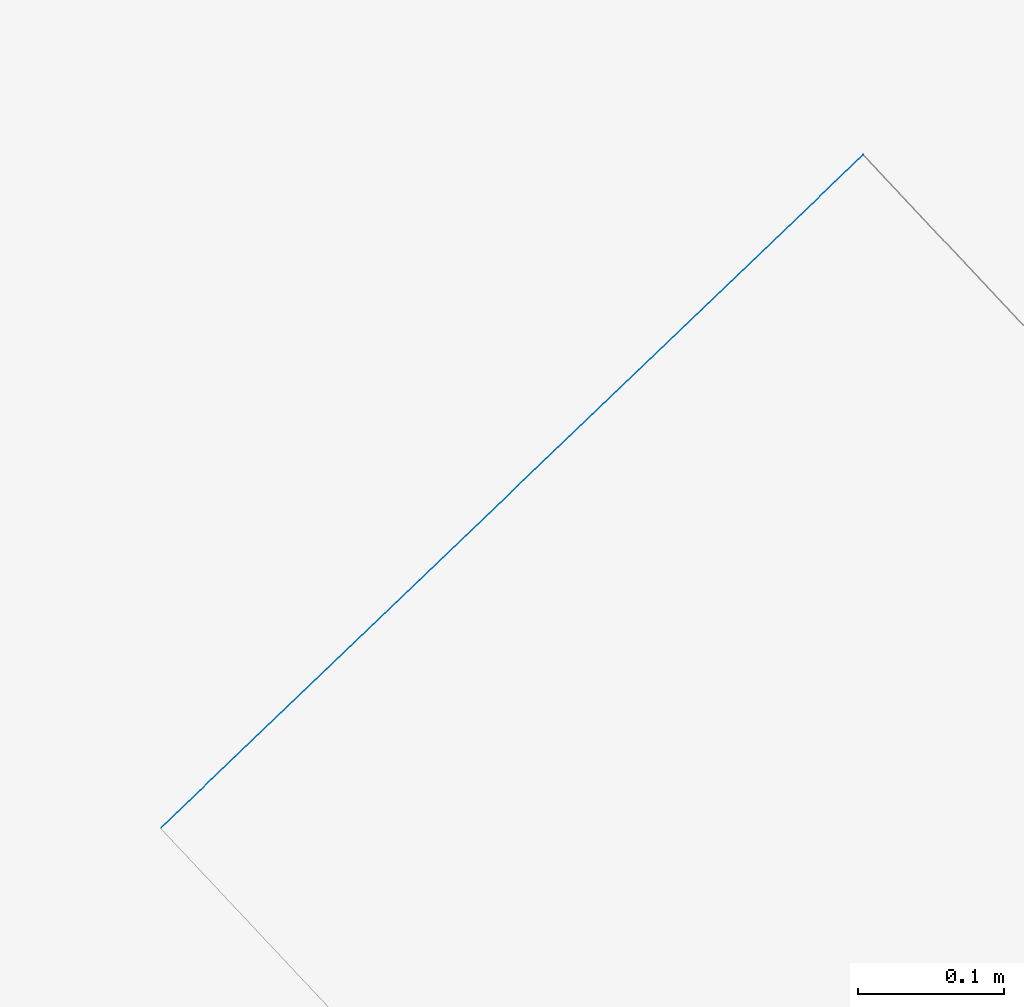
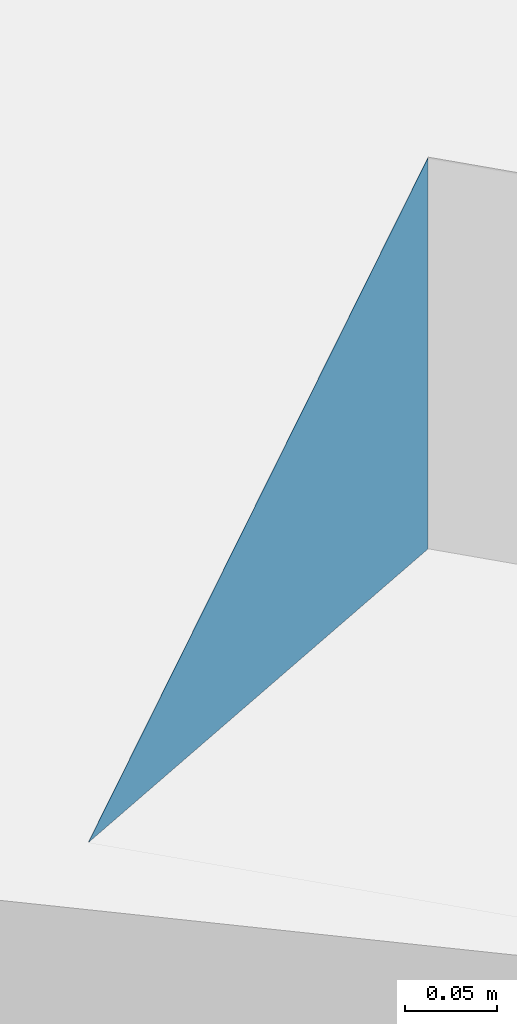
# Not in any storey, part 121 of 136: 1 wall.
"""IFC2X3 building model written with IfcOpenShell, lengths in metres."""

from ifc_helpers import new_model, entity, si_unit, converted_unit, origin, place, context, subcontext, project, spatial, face_set, surface_model, element, save


model = new_model("IFC2X3")

# Units and contexts
model_context = context("Model", 3, precision=1e-05, world=origin())
body_context = subcontext(model_context, "Body", "Model", "MODEL_VIEW")
ifc_project = project(units=[converted_unit("PLANEANGLEUNIT", "DEGREE", entity("IfcRatioMeasure", 0.0174532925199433), si_unit("PLANEANGLEUNIT", "RADIAN"), dimensions=[0, 0, 0, 0, 0, 0, 0]), si_unit("AREAUNIT", "SQUARE_METRE"), si_unit("LENGTHUNIT", "METRE")], contexts=[model_context])

# Site, building
site_placement = place(None, origin())
site = spatial("IfcSite", under=ifc_project, at=site_placement, Name="_site", CompositionType="ELEMENT")
building_placement = place(site_placement, origin())
building = spatial("IfcBuilding", under=site, at=building_placement, Name="_building", CompositionType="ELEMENT")

# Wall
wall_placement = place(building_placement, origin())
element("IfcWall", 1, at=wall_placement, inside=building, Name="Wall", context=body_context, shape_type="SurfaceModel", body=[
    surface_model("IfcFaceBasedSurfaceModel", [(73.64, 132.78, 46.55), (74.12, 133.24, 46.56), (74.12, 133.24, 46.299)], [face_set([[[0, 1, 2]]])]),
])

save(model, "model.ifc")
